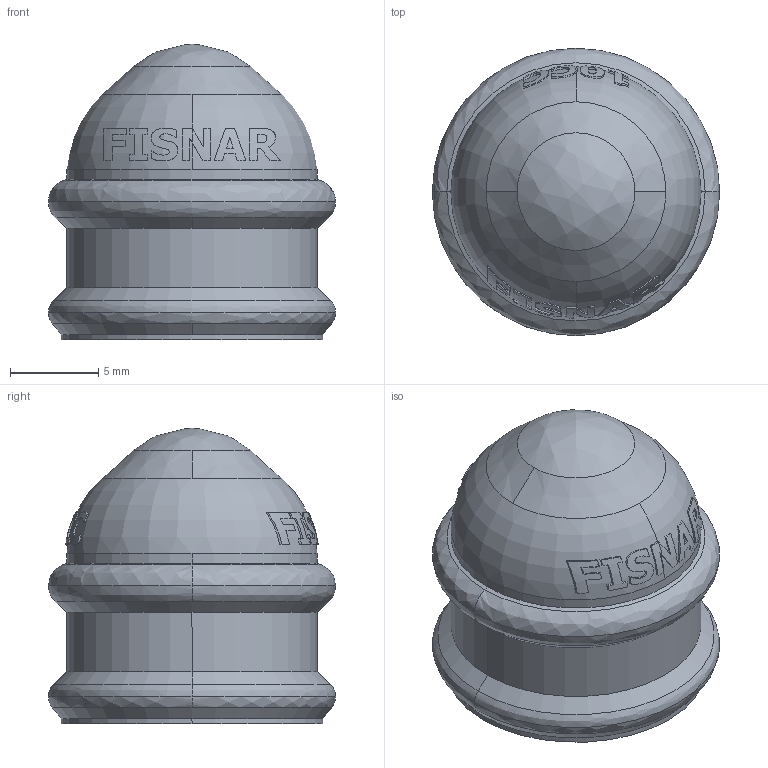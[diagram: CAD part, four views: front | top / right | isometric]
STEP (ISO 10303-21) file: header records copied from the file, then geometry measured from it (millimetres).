
FILE_DESCRIPTION (( 'STEP AP214' ), '1' );
FILE_NAME ('8001512_CUS.STEP', '2022-07-05T14:54:38', ( '' ), ( '' ), 'SwSTEP 2.0', 'SolidWorks 2020', '' );
FILE_SCHEMA (( 'AUTOMOTIVE_DESIGN' ));
Length unit declared in the file: millimetre
Products named in the file (1): 8001512_CUS
Bounding box: 16.28 x 16.28 x 16.75 mm (x, y, z)
Volume: 1432.2 mm3; surface area: 1416.2 mm2
Topology: 11 solids, 11 shells, 174 faces, 434 edges, 284 vertices
Faces by surface type: plane 75, bspline 49, torus 26, cone 14, cylinder 10
Entity records: 7168 total; most frequent: CARTESIAN_POINT 3095, ORIENTED_EDGE 868, DIRECTION 659, EDGE_CURVE 434, VERTEX_POINT 284, AXIS2_PLACEMENT_3D 264, EDGE_LOOP 182, ADVANCED_FACE 174
